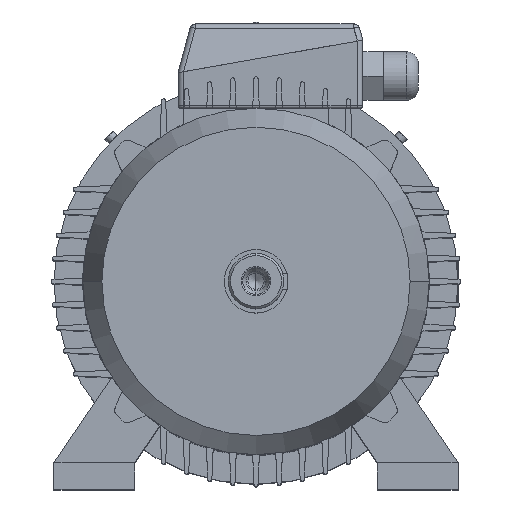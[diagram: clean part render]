
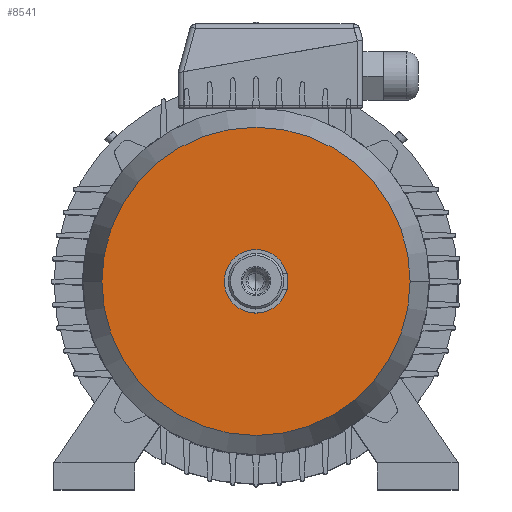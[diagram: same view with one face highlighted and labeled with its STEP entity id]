
A CAD part, top view. The second image highlights one B-rep face of the part: STEP entity #8541.
In plain terms, the highlighted planar face has unit normal (0, 0, 1).
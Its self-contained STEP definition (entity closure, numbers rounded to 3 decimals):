
#130 = CIRCLE ( 'NONE', #131, 133.5 ) ;
#131 = AXIS2_PLACEMENT_3D ( 'NONE', #132, #133, #134 ) ;
#132 = CARTESIAN_POINT ( 'NONE',  ( 0., 0., 61. ) ) ;
#133 = DIRECTION ( 'NONE',  ( 0., 0., -1. ) ) ;
#134 = DIRECTION ( 'NONE',  ( -1., 0., 0. ) ) ;
#1777 = FACE_OUTER_BOUND ( 'NONE', #8266, .T. ) ;
#1783 = PLANE ( 'NONE',  #1784 ) ;
#1784 = AXIS2_PLACEMENT_3D ( 'NONE', #1785, #1786, #1787 ) ;
#1785 = CARTESIAN_POINT ( 'NONE',  ( 0., 133.5, 61. ) ) ;
#1786 = DIRECTION ( 'NONE',  ( 0., 0., 1. ) ) ;
#1787 = DIRECTION ( 'NONE',  ( 1., 0., 0. ) ) ;
#3220 = VERTEX_POINT ( 'NONE', #7316 ) ;
#3464 = VERTEX_POINT ( 'NONE', #7469 ) ;
#4229 = EDGE_CURVE ( 'NONE', #3220, #3464, #9146, .T. ) ;
#5704 = EDGE_CURVE ( 'NONE', #3464, #3220, #130, .T. ) ;
#5921 = ORIENTED_EDGE ( 'NONE', *, *, #5704, .F. ) ;
#7316 = CARTESIAN_POINT ( 'NONE',  ( -133.5, 0., 61. ) ) ;
#7469 = CARTESIAN_POINT ( 'NONE',  ( 133.5, 0., 61. ) ) ;
#7679 = ORIENTED_EDGE ( 'NONE', *, *, #4229, .F. ) ;
#8266 = EDGE_LOOP ( 'NONE', ( #7679, #5921 ) ) ;
#8541 = ADVANCED_FACE ( 'NONE', ( #1777 ), #1783, .T. ) ;
#9146 = CIRCLE ( 'NONE', #9147, 133.5 ) ;
#9147 = AXIS2_PLACEMENT_3D ( 'NONE', #9148, #9149, #9150 ) ;
#9148 = CARTESIAN_POINT ( 'NONE',  ( 0., 0., 61. ) ) ;
#9149 = DIRECTION ( 'NONE',  ( 0., 0., -1. ) ) ;
#9150 = DIRECTION ( 'NONE',  ( -1., 0., 0. ) ) ;
